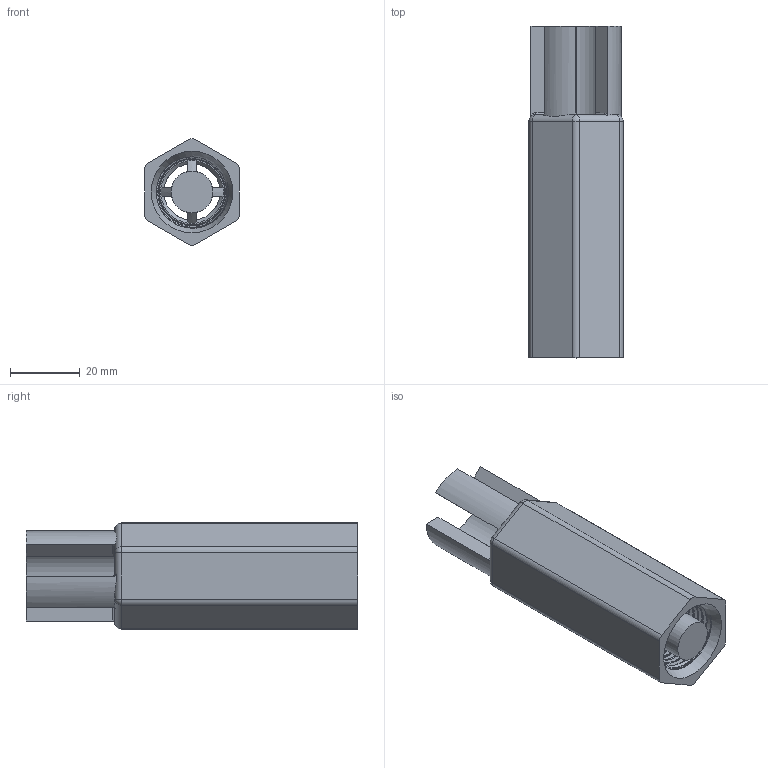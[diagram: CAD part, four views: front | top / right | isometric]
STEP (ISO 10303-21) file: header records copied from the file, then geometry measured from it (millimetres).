
FILE_DESCRIPTION(/* description */ (''),/* implementation_level */ '2;1');
FILE_NAME(/* name */ 'D:\Downloads\Project-ButWhatAbout-ECM-9x19-Barrel-DIY-V1-Package (3)\Revised Components\asdf\ECM CAD\STEP\Fitting Metric (6mm).stp',/* time_stamp */ '2021-02-15T01:40:59-06:00',/* author */ ('johne'),/* organization */ (''),/* preprocessor_version */ 'ST-DEVELOPER v18',/* originating_system */ 'Autodesk Inventor 2020',/* authorisation */ '');
FILE_SCHEMA (('AUTOMOTIVE_DESIGN { 1 0 10303 214 3 1 1 }'));
Length unit declared in the file: inch
Products named in the file (1): Fitting for 6mm Rod V2
Bounding box: 27.05 x 95.25 x 30.61 mm (x, y, z)
Volume: 33481.6 mm3; surface area: 17175.3 mm2
Topology: 1 solids, 1 shells, 127 faces, 369 edges, 240 vertices
Faces by surface type: cylinder 52, plane 42, cone 10, bspline 10, torus 7, sphere 6
Full cylindrical faces by diameter (mm): 6.3 x1, 9.052 x1, 12 x1, 16.2 x1, 20.955 x12
Entity records: 13287 total; most frequent: CARTESIAN_POINT 10070, ORIENTED_EDGE 738, DIRECTION 587, EDGE_CURVE 369, VERTEX_POINT 240, AXIS2_PLACEMENT_3D 229, EDGE_LOOP 131, LINE 129
